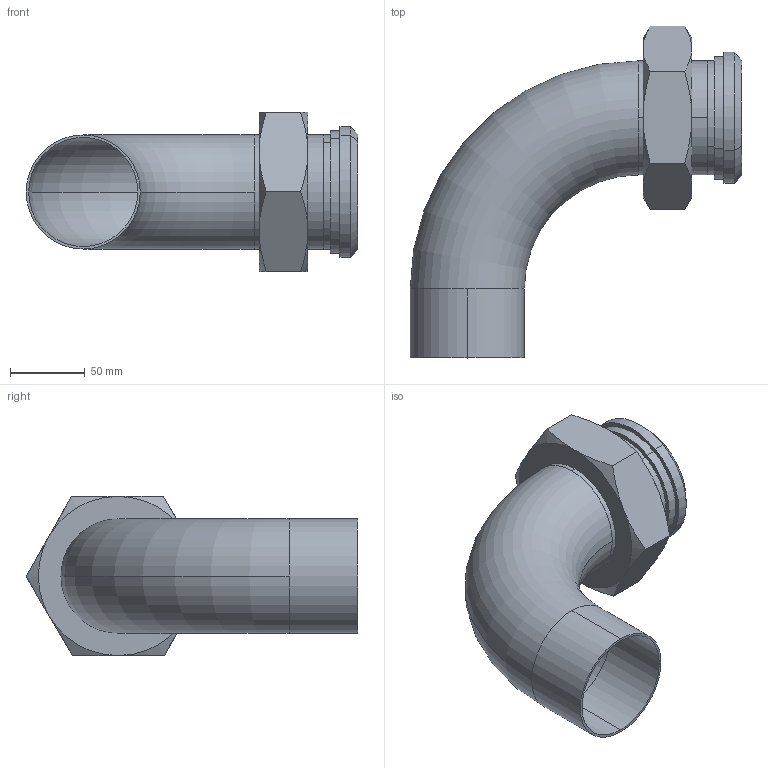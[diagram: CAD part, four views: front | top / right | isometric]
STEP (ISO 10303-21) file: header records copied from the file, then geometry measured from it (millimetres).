
FILE_DESCRIPTION (( 'STEP AP203' ), '1' );
FILE_NAME ('E2F3.0.STEP', '2018-05-02T15:16:01', ( 'vneprd' ), ( 'Microsoft' ), 'SwSTEP 2.0', 'SolidWorks 2014', '' );
FILE_SCHEMA (( 'CONFIG_CONTROL_DESIGN' ));
Length unit declared in the file: inch
Products named in the file (4): E2S3.0; E2F3.0; 14PR3.0; 13H3.0_44575K115
Assembly tree (3 placements, depth 2):
  E2F3.0
    E2S3.0
    14PR3.0
    13H3.0_44575K115
Bounding box: 221.51 x 221.72 x 106.78 mm (x, y, z)
Volume: 252412.3 mm3; surface area: 177151 mm2
Topology: 3 solids, 3 shells, 87 faces, 218 edges, 140 vertices
Faces by surface type: cylinder 47, plane 17, cone 17, torus 4, bspline 2
Entity records: 4078 total; most frequent: CARTESIAN_POINT 1724, ORIENTED_EDGE 436, DIRECTION 392, EDGE_CURVE 218, AXIS2_PLACEMENT_3D 166, VERTEX_POINT 140, EDGE_LOOP 96, ADVANCED_FACE 87
